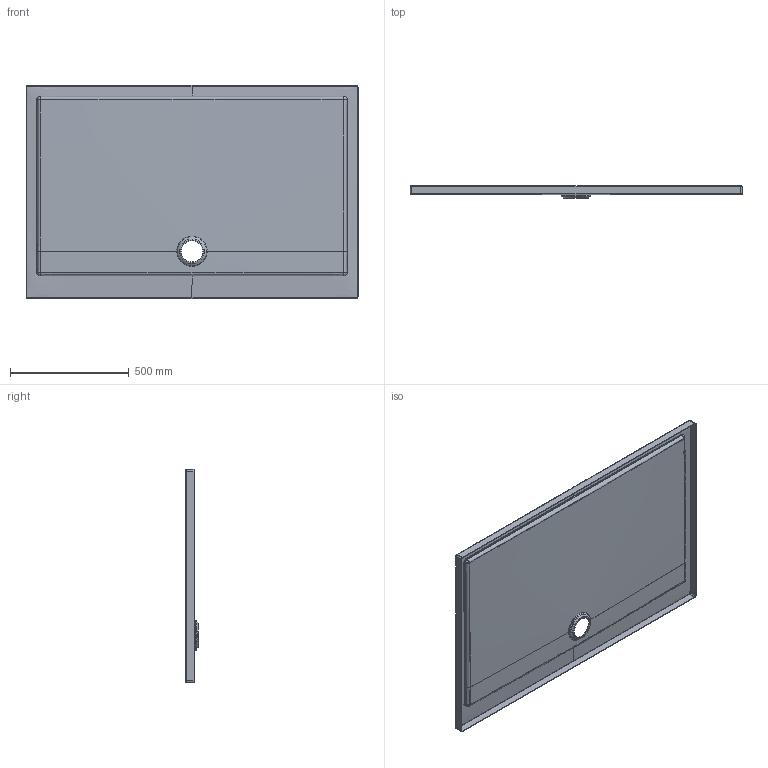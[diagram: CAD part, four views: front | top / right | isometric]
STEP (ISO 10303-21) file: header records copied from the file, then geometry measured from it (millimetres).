
FILE_DESCRIPTION((''),'2;1');
FILE_NAME('SUBWAY_SHOWERTRAY','2024-05-15T11:58:50',('hegemanc'),('Villeroy & Boch Wellness bv'),'CREO PARAMETRIC BY PTC INC, 2022414','CREO PARAMETRIC BY PTC INC, 2022414','');
FILE_SCHEMA(('AUTOMOTIVE_DESIGN { 1 0 10303 214 1 1 1 1 }'));
Length unit declared in the file: millimetre
Products named in the file (1): SUBWAY_SHOWERTRAY
Bounding box: 1400 x 52.97 x 900 mm (x, y, z)
Volume: 4395782.7 mm3; surface area: 2945280.9 mm2
Topology: 1 solids, 1 shells, 125 faces, 286 edges, 172 vertices
Faces by surface type: bspline 56, cylinder 22, plane 19, torus 12, sphere 8, cone 8
Entity records: 19212 total; most frequent: CARTESIAN_POINT 15002, COLOUR_RGB 1450, ORIENTED_EDGE 556, DIRECTION 434, EDGE_CURVE 278, AXIS2_PLACEMENT_3D 186, VERTEX_POINT 156, EDGE_LOOP 128
